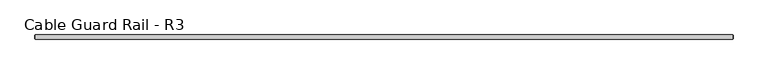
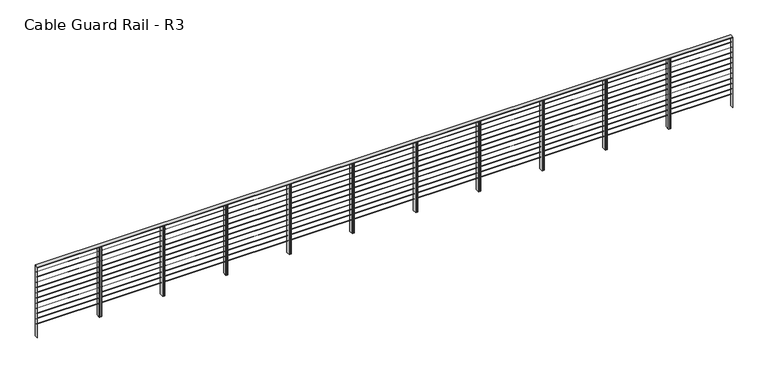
"""IFC4 building model written with IfcOpenShell, lengths in millimetres: railing geometry, Cable Guard Rail - R3."""

from ifc_helpers import new_model, si_unit, point, frame, frame_2d, origin, place, context, project, spatial, polyline, circle_curve, trimmed, segment, composite_curve, outline, extrude, source, transform, mapped, element, save


def cable_guard_rail_r3_09486a46(model_context):
    return source(origin(), model_context, "Body", "SweptSolid", [
        extrude(outline(polyline([(22408.6904546, 222790.3454803), (22408.6904546, 222866.5454803), (35251.5654546, 222866.5454803), (35251.5654546, 222790.3454803), (22408.6904546, 222790.3454803)])), frame((0.0, 0.0, 295916.35), z_axis=(0.0, 0.0, 1.0), x_axis=(1.0, 0.0, 0.0)), (0.0, 0.0, 1.0), 12.7),
        extrude(outline(composite_curve([segment(trimmed(circle_curve(frame_2d((222828.4454803, 295814.75)), 3.175), [point((222825.2704803, 295814.75))], [point((222831.6204803, 295814.75))], False, "CARTESIAN"), True, "CONTINUOUS"), segment(trimmed(circle_curve(frame_2d((222828.4454803, 295814.75)), 3.175), [point((222831.6204803, 295814.75))], [point((222825.2704803, 295814.75))], False, "CARTESIAN"), True, "CONTINUOUS")], self_intersect=False)), frame((22408.6904546, 0.0, 0.0), z_axis=(1.0, 0.0, 0.0), x_axis=(0.0, 1.0, 0.0)), (0.0, 0.0, 1.0), 12842.875),
        extrude(outline(composite_curve([segment(trimmed(circle_curve(frame_2d((222828.4454803, 295713.15)), 3.175), [point((222825.2704803, 295713.15))], [point((222831.6204803, 295713.15))], False, "CARTESIAN"), True, "CONTINUOUS"), segment(trimmed(circle_curve(frame_2d((222828.4454803, 295713.15)), 3.175), [point((222831.6204803, 295713.15))], [point((222825.2704803, 295713.15))], False, "CARTESIAN"), True, "CONTINUOUS")], self_intersect=False)), frame((22408.6904546, 0.0, 0.0), z_axis=(1.0, 0.0, 0.0), x_axis=(0.0, 1.0, 0.0)), (0.0, 0.0, 1.0), 12842.875),
        extrude(outline(composite_curve([segment(trimmed(circle_curve(frame_2d((222828.4454803, 295611.55)), 3.175), [point((222825.2704803, 295611.55))], [point((222831.6204803, 295611.55))], False, "CARTESIAN"), True, "CONTINUOUS"), segment(trimmed(circle_curve(frame_2d((222828.4454803, 295611.55)), 3.175), [point((222831.6204803, 295611.55))], [point((222825.2704803, 295611.55))], False, "CARTESIAN"), True, "CONTINUOUS")], self_intersect=False)), frame((22408.6904546, 0.0, 0.0), z_axis=(1.0, 0.0, 0.0), x_axis=(0.0, 1.0, 0.0)), (0.0, 0.0, 1.0), 12842.875),
        extrude(outline(composite_curve([segment(trimmed(circle_curve(frame_2d((222828.4454803, 295509.95)), 3.175), [point((222825.2704803, 295509.95))], [point((222831.6204803, 295509.95))], False, "CARTESIAN"), True, "CONTINUOUS"), segment(trimmed(circle_curve(frame_2d((222828.4454803, 295509.95)), 3.175), [point((222831.6204803, 295509.95))], [point((222825.2704803, 295509.95))], False, "CARTESIAN"), True, "CONTINUOUS")], self_intersect=False)), frame((22408.6904546, 0.0, 0.0), z_axis=(1.0, 0.0, 0.0), x_axis=(0.0, 1.0, 0.0)), (0.0, 0.0, 1.0), 12842.875),
        extrude(outline(composite_curve([segment(trimmed(circle_curve(frame_2d((222828.4454803, 295408.35)), 3.175), [point((222825.2704803, 295408.35))], [point((222831.6204803, 295408.35))], False, "CARTESIAN"), True, "CONTINUOUS"), segment(trimmed(circle_curve(frame_2d((222828.4454803, 295408.35)), 3.175), [point((222831.6204803, 295408.35))], [point((222825.2704803, 295408.35))], False, "CARTESIAN"), True, "CONTINUOUS")], self_intersect=False)), frame((22408.6904546, 0.0, 0.0), z_axis=(1.0, 0.0, 0.0), x_axis=(0.0, 1.0, 0.0)), (0.0, 0.0, 1.0), 12842.875),
        extrude(outline(composite_curve([segment(trimmed(circle_curve(frame_2d((222828.4454803, 295306.75)), 3.175), [point((222825.2704803, 295306.75))], [point((222831.6204803, 295306.75))], False, "CARTESIAN"), True, "CONTINUOUS"), segment(trimmed(circle_curve(frame_2d((222828.4454803, 295306.75)), 3.175), [point((222831.6204803, 295306.75))], [point((222825.2704803, 295306.75))], False, "CARTESIAN"), True, "CONTINUOUS")], self_intersect=False)), frame((22408.6904546, 0.0, 0.0), z_axis=(1.0, 0.0, 0.0), x_axis=(0.0, 1.0, 0.0)), (0.0, 0.0, 1.0), 12842.875),
        extrude(outline(composite_curve([segment(trimmed(circle_curve(frame_2d((222828.4454803, 295205.15)), 3.175), [point((222825.2704803, 295205.15))], [point((222831.6204803, 295205.15))], False, "CARTESIAN"), True, "CONTINUOUS"), segment(trimmed(circle_curve(frame_2d((222828.4454803, 295205.15)), 3.175), [point((222831.6204803, 295205.15))], [point((222825.2704803, 295205.15))], False, "CARTESIAN"), True, "CONTINUOUS")], self_intersect=False)), frame((22408.6904546, 0.0, 0.0), z_axis=(1.0, 0.0, 0.0), x_axis=(0.0, 1.0, 0.0)), (0.0, 0.0, 1.0), 12842.875),
        extrude(outline(composite_curve([segment(trimmed(circle_curve(frame_2d((222828.4454803, 295103.55)), 3.175), [point((222825.2704803, 295103.55))], [point((222831.6204803, 295103.55))], False, "CARTESIAN"), True, "CONTINUOUS"), segment(trimmed(circle_curve(frame_2d((222828.4454803, 295103.55)), 3.175), [point((222831.6204803, 295103.55))], [point((222825.2704803, 295103.55))], False, "CARTESIAN"), True, "CONTINUOUS")], self_intersect=False)), frame((22408.6904546, 0.0, 0.0), z_axis=(1.0, 0.0, 0.0), x_axis=(0.0, 1.0, 0.0)), (0.0, 0.0, 1.0), 12842.875),
        extrude(outline(composite_curve([segment(trimmed(circle_curve(frame_2d((222828.4454803, 295001.95)), 3.175), [point((222825.2704803, 295001.95))], [point((222831.6204803, 295001.95))], False, "CARTESIAN"), True, "CONTINUOUS"), segment(trimmed(circle_curve(frame_2d((222828.4454803, 295001.95)), 3.175), [point((222831.6204803, 295001.95))], [point((222825.2704803, 295001.95))], False, "CARTESIAN"), True, "CONTINUOUS")], self_intersect=False)), frame((22408.6904546, 0.0, 0.0), z_axis=(1.0, 0.0, 0.0), x_axis=(0.0, 1.0, 0.0)), (0.0, 0.0, 1.0), 12842.875),
        extrude(outline(composite_curve([segment(trimmed(circle_curve(frame_2d((222828.4454803, 294900.35)), 3.175), [point((222825.2704803, 294900.35))], [point((222831.6204803, 294900.35))], False, "CARTESIAN"), True, "CONTINUOUS"), segment(trimmed(circle_curve(frame_2d((222828.4454803, 294900.35)), 3.175), [point((222831.6204803, 294900.35))], [point((222825.2704803, 294900.35))], False, "CARTESIAN"), True, "CONTINUOUS")], self_intersect=False)), frame((22408.6904546, 0.0, 0.0), z_axis=(1.0, 0.0, 0.0), x_axis=(0.0, 1.0, 0.0)), (0.0, 0.0, 1.0), 12842.875),
        extrude(outline(composite_curve([segment(trimmed(circle_curve(frame_2d((222828.4454803, 294798.75)), 3.175), [point((222825.2704803, 294798.75))], [point((222831.6204803, 294798.75))], False, "CARTESIAN"), True, "CONTINUOUS"), segment(trimmed(circle_curve(frame_2d((222828.4454803, 294798.75)), 3.175), [point((222831.6204803, 294798.75))], [point((222825.2704803, 294798.75))], False, "CARTESIAN"), True, "CONTINUOUS")], self_intersect=False)), frame((22408.6904546, 0.0, 0.0), z_axis=(1.0, 0.0, 0.0), x_axis=(0.0, 1.0, 0.0)), (0.0, 0.0, 1.0), 12842.875),
        extrude(outline(polyline([(34061.8063637, 222790.3454803), (34061.8063637, 222866.5454803), (34071.3313637, 222866.5454803), (34071.3313637, 222790.3454803), (34061.8063637, 222790.3454803)])), frame((0.0, 0.0, 294551.1), z_axis=(0.0, 0.0, 1.0), x_axis=(1.0, 0.0, 0.0)), (0.0, 0.0, 1.0), 1365.25),
        extrude(outline(polyline([(34090.3813637, 222790.3454803), (34090.3813637, 222866.5454803), (34099.8581283, 222866.5454803), (34099.8581283, 222790.3454803), (34090.3813637, 222790.3454803)])), frame((0.0, 0.0, 294551.1), z_axis=(0.0, 0.0, 1.0), x_axis=(1.0, 0.0, 0.0)), (0.0, 0.0, 1.0), 1365.25),
        extrude(outline(polyline([(32894.2722728, 222790.3454803), (32894.2722728, 222866.5454803), (32903.7972728, 222866.5454803), (32903.7972728, 222790.3454803), (32894.2722728, 222790.3454803)])), frame((0.0, 0.0, 294551.1), z_axis=(0.0, 0.0, 1.0), x_axis=(1.0, 0.0, 0.0)), (0.0, 0.0, 1.0), 1365.25),
        extrude(outline(polyline([(32922.8472728, 222790.3454803), (32922.8472728, 222866.5454803), (32932.3240374, 222866.5454803), (32932.3240374, 222790.3454803), (32922.8472728, 222790.3454803)])), frame((0.0, 0.0, 294551.1), z_axis=(0.0, 0.0, 1.0), x_axis=(1.0, 0.0, 0.0)), (0.0, 0.0, 1.0), 1365.25),
        extrude(outline(polyline([(31726.7381819, 222790.3454803), (31726.7381819, 222866.5454803), (31736.2631819, 222866.5454803), (31736.2631819, 222790.3454803), (31726.7381819, 222790.3454803)])), frame((0.0, 0.0, 294551.1), z_axis=(0.0, 0.0, 1.0), x_axis=(1.0, 0.0, 0.0)), (0.0, 0.0, 1.0), 1365.25),
        extrude(outline(polyline([(31755.3131819, 222790.3454803), (31755.3131819, 222866.5454803), (31764.7899465, 222866.5454803), (31764.7899465, 222790.3454803), (31755.3131819, 222790.3454803)])), frame((0.0, 0.0, 294551.1), z_axis=(0.0, 0.0, 1.0), x_axis=(1.0, 0.0, 0.0)), (0.0, 0.0, 1.0), 1365.25),
        extrude(outline(polyline([(30559.204091, 222790.3454803), (30559.204091, 222866.5454803), (30568.729091, 222866.5454803), (30568.729091, 222790.3454803), (30559.204091, 222790.3454803)])), frame((0.0, 0.0, 294551.1), z_axis=(0.0, 0.0, 1.0), x_axis=(1.0, 0.0, 0.0)), (0.0, 0.0, 1.0), 1365.25),
        extrude(outline(polyline([(30587.779091, 222790.3454803), (30587.779091, 222866.5454803), (30597.2558556, 222866.5454803), (30597.2558556, 222790.3454803), (30587.779091, 222790.3454803)])), frame((0.0, 0.0, 294551.1), z_axis=(0.0, 0.0, 1.0), x_axis=(1.0, 0.0, 0.0)), (0.0, 0.0, 1.0), 1365.25),
        extrude(outline(polyline([(29391.6700001, 222790.3454803), (29391.6700001, 222866.5454803), (29401.1950001, 222866.5454803), (29401.1950001, 222790.3454803), (29391.6700001, 222790.3454803)])), frame((0.0, 0.0, 294551.1), z_axis=(0.0, 0.0, 1.0), x_axis=(1.0, 0.0, 0.0)), (0.0, 0.0, 1.0), 1365.25),
        extrude(outline(polyline([(29420.2450001, 222790.3454803), (29420.2450001, 222866.5454803), (29429.7217647, 222866.5454803), (29429.7217647, 222790.3454803), (29420.2450001, 222790.3454803)])), frame((0.0, 0.0, 294551.1), z_axis=(0.0, 0.0, 1.0), x_axis=(1.0, 0.0, 0.0)), (0.0, 0.0, 1.0), 1365.25),
        extrude(outline(polyline([(28224.1359092, 222790.3454803), (28224.1359092, 222866.5454803), (28233.6609092, 222866.5454803), (28233.6609092, 222790.3454803), (28224.1359092, 222790.3454803)])), frame((0.0, 0.0, 294551.1), z_axis=(0.0, 0.0, 1.0), x_axis=(1.0, 0.0, 0.0)), (0.0, 0.0, 1.0), 1365.25),
        extrude(outline(polyline([(28252.7109092, 222790.3454803), (28252.7109092, 222866.5454803), (28262.1876738, 222866.5454803), (28262.1876738, 222790.3454803), (28252.7109092, 222790.3454803)])), frame((0.0, 0.0, 294551.1), z_axis=(0.0, 0.0, 1.0), x_axis=(1.0, 0.0, 0.0)), (0.0, 0.0, 1.0), 1365.25),
        extrude(outline(polyline([(27056.6018183, 222790.3454803), (27056.6018183, 222866.5454803), (27066.1268183, 222866.5454803), (27066.1268183, 222790.3454803), (27056.6018183, 222790.3454803)])), frame((0.0, 0.0, 294551.1), z_axis=(0.0, 0.0, 1.0), x_axis=(1.0, 0.0, 0.0)), (0.0, 0.0, 1.0), 1365.25),
        extrude(outline(polyline([(27085.1768183, 222790.3454803), (27085.1768183, 222866.5454803), (27094.6535829, 222866.5454803), (27094.6535829, 222790.3454803), (27085.1768183, 222790.3454803)])), frame((0.0, 0.0, 294551.1), z_axis=(0.0, 0.0, 1.0), x_axis=(1.0, 0.0, 0.0)), (0.0, 0.0, 1.0), 1365.25),
        extrude(outline(polyline([(25889.0677274, 222790.3454803), (25889.0677274, 222866.5454803), (25898.5927274, 222866.5454803), (25898.5927274, 222790.3454803), (25889.0677274, 222790.3454803)])), frame((0.0, 0.0, 294551.1), z_axis=(0.0, 0.0, 1.0), x_axis=(1.0, 0.0, 0.0)), (0.0, 0.0, 1.0), 1365.25),
        extrude(outline(polyline([(25917.6427274, 222790.3454803), (25917.6427274, 222866.5454803), (25927.119492, 222866.5454803), (25927.119492, 222790.3454803), (25917.6427274, 222790.3454803)])), frame((0.0, 0.0, 294551.1), z_axis=(0.0, 0.0, 1.0), x_axis=(1.0, 0.0, 0.0)), (0.0, 0.0, 1.0), 1365.25),
        extrude(outline(polyline([(24721.5336364, 222790.3454803), (24721.5336364, 222866.5454803), (24731.0586364, 222866.5454803), (24731.0586364, 222790.3454803), (24721.5336364, 222790.3454803)])), frame((0.0, 0.0, 294551.1), z_axis=(0.0, 0.0, 1.0), x_axis=(1.0, 0.0, 0.0)), (0.0, 0.0, 1.0), 1365.25),
        extrude(outline(polyline([(24750.1086364, 222790.3454803), (24750.1086364, 222866.5454803), (24759.5854011, 222866.5454803), (24759.5854011, 222790.3454803), (24750.1086364, 222790.3454803)])), frame((0.0, 0.0, 294551.1), z_axis=(0.0, 0.0, 1.0), x_axis=(1.0, 0.0, 0.0)), (0.0, 0.0, 1.0), 1365.25),
        extrude(outline(polyline([(23553.9995455, 222790.3454803), (23553.9995455, 222866.5454803), (23563.5245455, 222866.5454803), (23563.5245455, 222790.3454803), (23553.9995455, 222790.3454803)])), frame((0.0, 0.0, 294551.1), z_axis=(0.0, 0.0, 1.0), x_axis=(1.0, 0.0, 0.0)), (0.0, 0.0, 1.0), 1365.25),
        extrude(outline(polyline([(23582.5745455, 222790.3454803), (23582.5745455, 222866.5454803), (23592.0513102, 222866.5454803), (23592.0513102, 222790.3454803), (23582.5745455, 222790.3454803)])), frame((0.0, 0.0, 294551.1), z_axis=(0.0, 0.0, 1.0), x_axis=(1.0, 0.0, 0.0)), (0.0, 0.0, 1.0), 1365.25),
        extrude(outline(polyline([(35248.3904546, 222796.6954803), (35248.3904546, 222860.1954803), (35254.7404546, 222860.1954803), (35254.7404546, 222796.6954803), (35248.3904546, 222796.6954803)])), frame((0.0, 0.0, 294551.1), z_axis=(0.0, 0.0, 1.0), x_axis=(1.0, 0.0, 0.0)), (0.0, 0.0, 1.0), 1365.25),
        extrude(outline(polyline([(22405.5154546, 222796.6954803), (22405.5154546, 222860.1954803), (22411.8654546, 222860.1954803), (22411.8654546, 222796.6954803), (22405.5154546, 222796.6954803)])), frame((0.0, 0.0, 294551.1), z_axis=(0.0, 0.0, 1.0), x_axis=(1.0, 0.0, 0.0)), (0.0, 0.0, 1.0), 1365.25),
    ])


if __name__ == "__main__":
    model = new_model("IFC4")
    model_context = context("Model", 3, world=origin())
    ifc_project = project(units=[si_unit("LENGTHUNIT", "METRE", prefix="MILLI")], contexts=[model_context])
    site = spatial("IfcSite", under=ifc_project)
    building = spatial("IfcBuilding", under=site)
    placement = place(None, origin())
    cable_guard_rail_r3_shape = cable_guard_rail_r3_09486a46(model_context)
    element("IfcRailing", 1, ObjectType="Cable Guard Rail - R3", at=placement, inside=building, context=model_context, shape_type="MappedRepresentation", body=[
        mapped(cable_guard_rail_r3_shape, transform((0.0, 0.0, 0.0), x_axis=(1.0, 0.0, 0.0), y_axis=(0.0, 1.0, 0.0), z_axis=(0.0, 0.0, 1.0))),
    ])
    save(model, "model.ifc")
